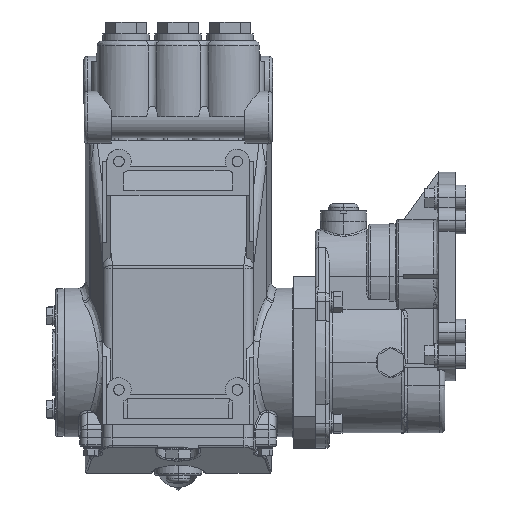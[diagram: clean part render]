
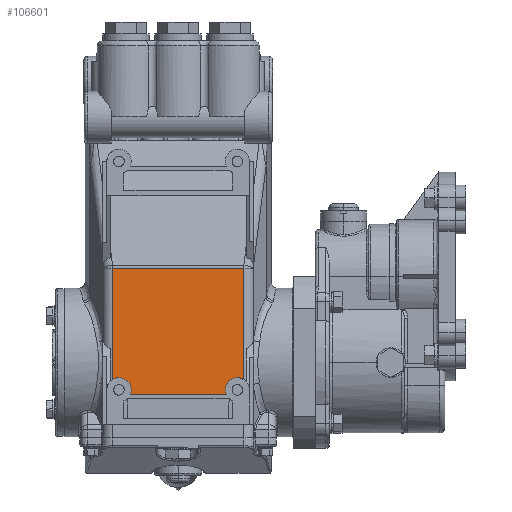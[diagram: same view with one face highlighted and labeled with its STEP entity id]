
A CAD part, front view. The second image highlights one B-rep face of the part: STEP entity #106601.
In plain terms, the highlighted planar face has unit normal (0, -1, 0).
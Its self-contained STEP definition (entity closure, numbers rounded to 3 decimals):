
#1459 = LINE ( 'NONE', #86747, #90244 ) ;
#1885 = DIRECTION ( 'NONE',  ( 1., 0., 0. ) ) ;
#2720 = CARTESIAN_POINT ( 'NONE',  ( 26.232, -53.362, -11.88 ) ) ;
#3465 = CARTESIAN_POINT ( 'NONE',  ( 22.949, -53.362, -11.303 ) ) ;
#9597 = CARTESIAN_POINT ( 'NONE',  ( -55.888, -53.362, -20.199 ) ) ;
#9761 = LINE ( 'NONE', #12283, #72841 ) ;
#9937 = CARTESIAN_POINT ( 'NONE',  ( 16.337, -53.362, -14.145 ) ) ;
#11077 = CARTESIAN_POINT ( 'NONE',  ( 14.204, -53.362, -18. ) ) ;
#11753 = AXIS2_PLACEMENT_3D ( 'NONE', #109938, #84005, #33370 ) ;
#12283 = CARTESIAN_POINT ( 'NONE',  ( 17.107, -53.362, -23.804 ) ) ;
#12827 = EDGE_CURVE ( 'NONE', #69523, #57873, #13037, .T. ) ;
#13037 = B_SPLINE_CURVE_WITH_KNOTS ( 'NONE', 3,
 ( #105257, #79759, #2720, #71412, #28769, #97753 ),
 .UNSPECIFIED., .F., .F.,
 ( 4, 2, 4 ),
 ( 0., 0.5, 1. ),
 .UNSPECIFIED. ) ;
#14984 = VECTOR ( 'NONE', #1885, 1000. ) ;
#18485 = CARTESIAN_POINT ( 'NONE',  ( 47.968, -53.362, 70.035 ) ) ;
#19689 = CARTESIAN_POINT ( 'NONE',  ( 14.633, -53.362, -23.804 ) ) ;
#20480 = VERTEX_POINT ( 'NONE', #107454 ) ;
#24119 = B_SPLINE_CURVE_WITH_KNOTS ( 'NONE', 3,
 ( #85406, #34002, #77114, #111317, #9597, #95169, #60973, #25793, #42606, #85781, #94056, #60207, #94793, #51966, #86547, #51616, #103761, #51238 ),
 .UNSPECIFIED., .F., .F.,
 ( 4, 2, 2, 2, 2, 2, 2, 2, 4 ),
 ( 0., 0.125, 0.25, 0.375, 0.5, 0.625, 0.75, 0.875, 1. ),
 .UNSPECIFIED. ) ;
#25210 = EDGE_CURVE ( 'NONE', #57873, #67832, #62725, .T. ) ;
#25512 = ORIENTED_EDGE ( 'NONE', *, *, #62304, .F. ) ;
#25793 = CARTESIAN_POINT ( 'NONE',  ( -56.685, -53.362, -16.607 ) ) ;
#26316 = CARTESIAN_POINT ( 'NONE',  ( 27.715, -53.362, -55.88 ) ) ;
#26859 = CARTESIAN_POINT ( 'NONE',  ( 15.851, -53.362, -14.71 ) ) ;
#28251 = DIRECTION ( 'NONE',  ( 0., 0., 1. ) ) ;
#28769 = CARTESIAN_POINT ( 'NONE',  ( 23.786, -53.362, -11.303 ) ) ;
#31475 = CARTESIAN_POINT ( 'NONE',  ( -68.218, -53.362, -11.88 ) ) ;
#33270 = VERTEX_POINT ( 'NONE', #68814 ) ;
#33370 = DIRECTION ( 'NONE',  ( 0., 0., 1. ) ) ;
#33926 = B_SPLINE_CURVE_WITH_KNOTS ( 'NONE', 3,
 ( #82822, #107995, #56531, #31475, #91463, #99711 ),
 .UNSPECIFIED., .F., .F.,
 ( 4, 2, 4 ),
 ( 0., 0.5, 1. ),
 .UNSPECIFIED. ) ;
#34002 = CARTESIAN_POINT ( 'NONE',  ( -56.332, -53.362, -23.122 ) ) ;
#34262 = EDGE_CURVE ( 'NONE', #40179, #33270, #24119, .T. ) ;
#36172 = CARTESIAN_POINT ( 'NONE',  ( 17.431, -53.362, -13.151 ) ) ;
#38716 = ORIENTED_EDGE ( 'NONE', *, *, #60933, .F. ) ;
#38823 = ORIENTED_EDGE ( 'NONE', *, *, #108511, .F. ) ;
#39656 = CARTESIAN_POINT ( 'NONE',  ( 14.633, -53.362, -23.804 ) ) ;
#39727 = ORIENTED_EDGE ( 'NONE', *, *, #12827, .F. ) ;
#40179 = VERTEX_POINT ( 'NONE', #97683 ) ;
#42606 = CARTESIAN_POINT ( 'NONE',  ( -57.018, -53.362, -15.941 ) ) ;
#43627 = EDGE_LOOP ( 'NONE', ( #60149, #95875, #64772, #39727, #25512, #102241, #38823, #38716 ) ) ;
#44805 = CARTESIAN_POINT ( 'NONE',  ( 14.146, -53.362, -22.405 ) ) ;
#46485 = CARTESIAN_POINT ( 'NONE',  ( -69.701, -53.362, 70.035 ) ) ;
#47112 = DIRECTION ( 'NONE',  ( -1., 0., 0. ) ) ;
#48350 = EDGE_CURVE ( 'NONE', #63187, #20480, #55194, .T. ) ;
#51238 = CARTESIAN_POINT ( 'NONE',  ( -64.935, -53.362, -11.303 ) ) ;
#51616 = CARTESIAN_POINT ( 'NONE',  ( -63.456, -53.362, -11.394 ) ) ;
#51966 = CARTESIAN_POINT ( 'NONE',  ( -61.328, -53.362, -12.023 ) ) ;
#53378 = CARTESIAN_POINT ( 'NONE',  ( 19.342, -53.362, -12.023 ) ) ;
#54126 = CARTESIAN_POINT ( 'NONE',  ( 14.347, -53.362, -23.122 ) ) ;
#55194 = LINE ( 'NONE', #18485, #14984 ) ;
#56531 = CARTESIAN_POINT ( 'NONE',  ( -66.608, -53.362, -11.42 ) ) ;
#57873 = VERTEX_POINT ( 'NONE', #3465 ) ;
#60149 = ORIENTED_EDGE ( 'NONE', *, *, #34262, .F. ) ;
#60207 = CARTESIAN_POINT ( 'NONE',  ( -59.416, -53.362, -13.151 ) ) ;
#60919 = CARTESIAN_POINT ( 'NONE',  ( 13.903, -53.362, -20.199 ) ) ;
#60933 = EDGE_CURVE ( 'NONE', #33270, #81089, #33926, .T. ) ;
#60973 = CARTESIAN_POINT ( 'NONE',  ( -56.19, -53.362, -18. ) ) ;
#61295 = CARTESIAN_POINT ( 'NONE',  ( 18.039, -53.362, -12.721 ) ) ;
#61482 = DIRECTION ( 'NONE',  ( 0., 0., -1. ) ) ;
#62304 = EDGE_CURVE ( 'NONE', #20480, #69523, #75424, .T. ) ;
#62387 = CARTESIAN_POINT ( 'NONE',  ( 21.471, -53.362, -11.394 ) ) ;
#62725 = B_SPLINE_CURVE_WITH_KNOTS ( 'NONE', 3,
 ( #105237, #87628, #62387, #95500, #53378, #61295, #36172, #9937, #26859, #95887, #96262, #11077, #69520, #60919, #71021, #44805, #54126, #19689 ),
 .UNSPECIFIED., .F., .F.,
 ( 4, 2, 2, 2, 2, 2, 2, 2, 4 ),
 ( 0., 0.125, 0.25, 0.375, 0.5, 0.625, 0.75, 0.875, 1. ),
 .UNSPECIFIED. ) ;
#63187 = VERTEX_POINT ( 'NONE', #46485 ) ;
#64772 = ORIENTED_EDGE ( 'NONE', *, *, #25210, .F. ) ;
#67832 = VERTEX_POINT ( 'NONE', #39656 ) ;
#68814 = CARTESIAN_POINT ( 'NONE',  ( -64.935, -53.362, -11.303 ) ) ;
#69520 = CARTESIAN_POINT ( 'NONE',  ( 14.043, -53.362, -18.727 ) ) ;
#69523 = VERTEX_POINT ( 'NONE', #96276 ) ;
#71021 = CARTESIAN_POINT ( 'NONE',  ( 13.923, -53.362, -20.944 ) ) ;
#71412 = CARTESIAN_POINT ( 'NONE',  ( 24.623, -53.362, -11.42 ) ) ;
#72841 = VECTOR ( 'NONE', #47112, 1000. ) ;
#73081 = EDGE_CURVE ( 'NONE', #67832, #40179, #9761, .T. ) ;
#75424 = LINE ( 'NONE', #26316, #78105 ) ;
#77114 = CARTESIAN_POINT ( 'NONE',  ( -56.131, -53.362, -22.405 ) ) ;
#78105 = VECTOR ( 'NONE', #61482, 1000. ) ;
#79759 = CARTESIAN_POINT ( 'NONE',  ( 27.005, -53.362, -12.223 ) ) ;
#81089 = VERTEX_POINT ( 'NONE', #95375 ) ;
#82822 = CARTESIAN_POINT ( 'NONE',  ( -64.935, -53.362, -11.303 ) ) ;
#84005 = DIRECTION ( 'NONE',  ( 0., 1., 0. ) ) ;
#85406 = CARTESIAN_POINT ( 'NONE',  ( -56.618, -53.362, -23.804 ) ) ;
#85781 = CARTESIAN_POINT ( 'NONE',  ( -57.837, -53.362, -14.71 ) ) ;
#86547 = CARTESIAN_POINT ( 'NONE',  ( -62.022, -53.362, -11.754 ) ) ;
#86747 = CARTESIAN_POINT ( 'NONE',  ( -69.701, -53.362, -55.88 ) ) ;
#87628 = CARTESIAN_POINT ( 'NONE',  ( 22.21, -53.362, -11.303 ) ) ;
#90244 = VECTOR ( 'NONE', #28251, 1000. ) ;
#91463 = CARTESIAN_POINT ( 'NONE',  ( -68.99, -53.362, -12.223 ) ) ;
#93430 = PLANE ( 'NONE',  #11753 ) ;
#94056 = CARTESIAN_POINT ( 'NONE',  ( -58.322, -53.362, -14.145 ) ) ;
#94793 = CARTESIAN_POINT ( 'NONE',  ( -60.025, -53.362, -12.721 ) ) ;
#95169 = CARTESIAN_POINT ( 'NONE',  ( -56.029, -53.362, -18.727 ) ) ;
#95375 = CARTESIAN_POINT ( 'NONE',  ( -69.701, -53.362, -12.665 ) ) ;
#95500 = CARTESIAN_POINT ( 'NONE',  ( 20.037, -53.362, -11.754 ) ) ;
#95875 = ORIENTED_EDGE ( 'NONE', *, *, #73081, .F. ) ;
#95887 = CARTESIAN_POINT ( 'NONE',  ( 15.032, -53.362, -15.941 ) ) ;
#96262 = CARTESIAN_POINT ( 'NONE',  ( 14.699, -53.362, -16.607 ) ) ;
#96276 = CARTESIAN_POINT ( 'NONE',  ( 27.715, -53.362, -12.665 ) ) ;
#97683 = CARTESIAN_POINT ( 'NONE',  ( -56.618, -53.362, -23.804 ) ) ;
#97753 = CARTESIAN_POINT ( 'NONE',  ( 22.949, -53.362, -11.303 ) ) ;
#99711 = CARTESIAN_POINT ( 'NONE',  ( -69.701, -53.362, -12.665 ) ) ;
#101733 = FACE_OUTER_BOUND ( 'NONE', #43627, .T. ) ;
#102241 = ORIENTED_EDGE ( 'NONE', *, *, #48350, .F. ) ;
#103761 = CARTESIAN_POINT ( 'NONE',  ( -64.196, -53.362, -11.303 ) ) ;
#105237 = CARTESIAN_POINT ( 'NONE',  ( 22.949, -53.362, -11.303 ) ) ;
#105257 = CARTESIAN_POINT ( 'NONE',  ( 27.715, -53.362, -12.665 ) ) ;
#106601 = ADVANCED_FACE ( 'NONE', ( #101733 ), #93430, .F. ) ;
#107454 = CARTESIAN_POINT ( 'NONE',  ( 27.715, -53.362, 70.035 ) ) ;
#107995 = CARTESIAN_POINT ( 'NONE',  ( -65.772, -53.362, -11.303 ) ) ;
#108511 = EDGE_CURVE ( 'NONE', #81089, #63187, #1459, .T. ) ;
#109938 = CARTESIAN_POINT ( 'NONE',  ( 47.968, -53.362, -55.88 ) ) ;
#111317 = CARTESIAN_POINT ( 'NONE',  ( -55.909, -53.362, -20.944 ) ) ;
